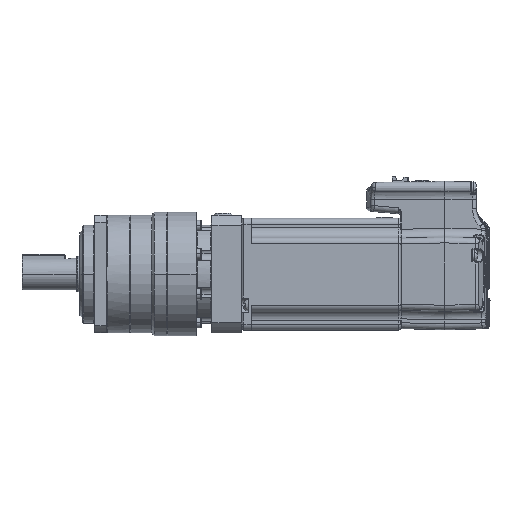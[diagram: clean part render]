
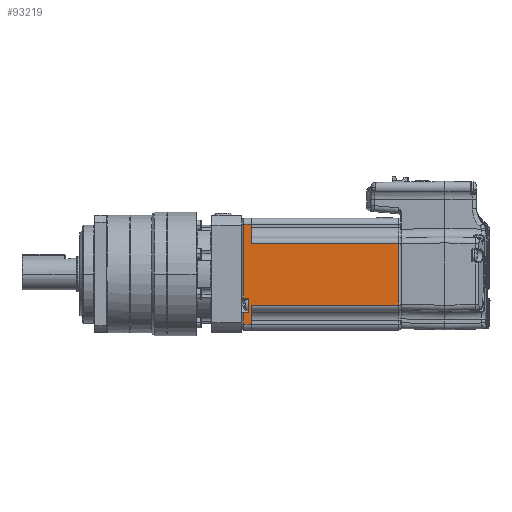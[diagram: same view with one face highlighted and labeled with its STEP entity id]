
A CAD part, left-side view. The second image highlights one B-rep face of the part: STEP entity #93219.
In plain terms, the highlighted planar face has unit normal (-1, 0, 0).
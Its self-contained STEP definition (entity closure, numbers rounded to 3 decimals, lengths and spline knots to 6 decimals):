
#15682 = FACE_OUTER_BOUND ( 'NONE', #38463, .T. ) ;
#18188 = AXIS2_PLACEMENT_3D ( 'NONE', #30464, #30478, #30480 ) ;
#30464 = CARTESIAN_POINT ( 'NONE',  ( -0.028519, 0.0075, -0.0285 ) ) ;
#30474 = PLANE ( 'NONE',  #18188 ) ;
#30478 = DIRECTION ( 'NONE',  ( -1., 0., 0. ) ) ;
#30480 = DIRECTION ( 'NONE',  ( 0., 0., 1. ) ) ;
#38463 = EDGE_LOOP ( 'NONE', ( #132261, #132262, #132263, #132264, #132265, #132266, #132267, #132268, #132269, #132270, #132271, #132272 ) ) ;
#53058 = CARTESIAN_POINT ( 'NONE',  ( -0.028519, 0.0835, 0.0255 ) ) ;
#53147 = CARTESIAN_POINT ( 'NONE',  ( -0.028519, 0.0085, 0.01577 ) ) ;
#53199 = CARTESIAN_POINT ( 'NONE',  ( -0.028519, 0.0085, -0.01577 ) ) ;
#53221 = CARTESIAN_POINT ( 'NONE',  ( -0.028519, 0.0875, 0.0255 ) ) ;
#53377 = CARTESIAN_POINT ( 'NONE',  ( -0.028519, 0.0875, -0.0122 ) ) ;
#60328 = LINE ( 'NONE', #76522, #60344 ) ;
#60344 = VECTOR ( 'NONE', #76513, 1. ) ;
#60572 = LINE ( 'NONE', #82118, #60581 ) ;
#60578 = LINE ( 'NONE', #82131, #60597 ) ;
#60581 = VECTOR ( 'NONE', #82124, 1. ) ;
#60584 = LINE ( 'NONE', #82121, #60589 ) ;
#60589 = VECTOR ( 'NONE', #82103, 1. ) ;
#60593 = LINE ( 'NONE', #82150, #60603 ) ;
#60597 = VECTOR ( 'NONE', #82145, 1. ) ;
#60600 = LINE ( 'NONE', #82158, #60609 ) ;
#60603 = VECTOR ( 'NONE', #82155, 1. ) ;
#60606 = LINE ( 'NONE', #82164, #60617 ) ;
#60609 = VECTOR ( 'NONE', #82162, 1. ) ;
#60613 = LINE ( 'NONE', #82171, #60623 ) ;
#60617 = VECTOR ( 'NONE', #82168, 1. ) ;
#60620 = LINE ( 'NONE', #82178, #60629 ) ;
#60623 = VECTOR ( 'NONE', #82175, 1. ) ;
#60626 = LINE ( 'NONE', #82185, #60636 ) ;
#60629 = VECTOR ( 'NONE', #82182, 1. ) ;
#60633 = LINE ( 'NONE', #82193, #60642 ) ;
#60636 = VECTOR ( 'NONE', #82190, 1. ) ;
#60639 = LINE ( 'NONE', #82200, #60649 ) ;
#60642 = VECTOR ( 'NONE', #82197, 1. ) ;
#60649 = VECTOR ( 'NONE', #82205, 1. ) ;
#66988 = CARTESIAN_POINT ( 'NONE',  ( -0.028519, 0.0835, -0.01577 ) ) ;
#67016 = CARTESIAN_POINT ( 'NONE',  ( -0.028519, 0.0835, 0.01577 ) ) ;
#67102 = CARTESIAN_POINT ( 'NONE',  ( -0.028519, 0.0875, -0.0196 ) ) ;
#67105 = CARTESIAN_POINT ( 'NONE',  ( -0.028519, 0.0875, -0.0255 ) ) ;
#67111 = CARTESIAN_POINT ( 'NONE',  ( -0.028519, 0.0835, -0.0255 ) ) ;
#67159 = CARTESIAN_POINT ( 'NONE',  ( -0.028519, 0.085, -0.0196 ) ) ;
#67317 = CARTESIAN_POINT ( 'NONE',  ( -0.028519, 0.085, -0.0122 ) ) ;
#76513 = DIRECTION ( 'NONE',  ( 0., 0., -1. ) ) ;
#76522 = CARTESIAN_POINT ( 'NONE',  ( -0.028519, 0.0085, 0.01577 ) ) ;
#82103 = DIRECTION ( 'NONE',  ( 0., 1., 0. ) ) ;
#82118 = CARTESIAN_POINT ( 'NONE',  ( -0.028519, 0.0835, -0.01577 ) ) ;
#82121 = CARTESIAN_POINT ( 'NONE',  ( -0.028519, 0.0075, 0.01577 ) ) ;
#82124 = DIRECTION ( 'NONE',  ( 0., 1., 0. ) ) ;
#82131 = CARTESIAN_POINT ( 'NONE',  ( -0.028519, 0.0835, -0.0285 ) ) ;
#82145 = DIRECTION ( 'NONE',  ( 0., 0., 1. ) ) ;
#82150 = CARTESIAN_POINT ( 'NONE',  ( -0.028519, 0.0075, 0.0255 ) ) ;
#82155 = DIRECTION ( 'NONE',  ( 0., 1., 0. ) ) ;
#82158 = CARTESIAN_POINT ( 'NONE',  ( -0.028519, 0.0875, -0.0285 ) ) ;
#82162 = DIRECTION ( 'NONE',  ( 0., 0., -1. ) ) ;
#82164 = CARTESIAN_POINT ( 'NONE',  ( -0.028519, 0.0075, -0.0122 ) ) ;
#82168 = DIRECTION ( 'NONE',  ( 0., -1., 0. ) ) ;
#82171 = CARTESIAN_POINT ( 'NONE',  ( -0.028519, 0.085, -0.0285 ) ) ;
#82175 = DIRECTION ( 'NONE',  ( 0., 0., -1. ) ) ;
#82178 = CARTESIAN_POINT ( 'NONE',  ( -0.028519, 0.0075, -0.0196 ) ) ;
#82182 = DIRECTION ( 'NONE',  ( 0., 1., 0. ) ) ;
#82185 = CARTESIAN_POINT ( 'NONE',  ( -0.028519, 0.0875, -0.0285 ) ) ;
#82190 = DIRECTION ( 'NONE',  ( 0., 0., -1. ) ) ;
#82193 = CARTESIAN_POINT ( 'NONE',  ( -0.028519, 0.0075, -0.0255 ) ) ;
#82197 = DIRECTION ( 'NONE',  ( 0., -1., 0. ) ) ;
#82200 = CARTESIAN_POINT ( 'NONE',  ( -0.028519, 0.0835, -0.0285 ) ) ;
#82205 = DIRECTION ( 'NONE',  ( 0., 0., 1. ) ) ;
#93219 = ADVANCED_FACE ( 'NONE', ( #15682 ), #30474, .T. ) ;
#101395 = EDGE_CURVE ( 'NONE', #150751, #150860, #60328, .T. ) ;
#101513 = EDGE_CURVE ( 'NONE', #150860, #151563, #60572, .T. ) ;
#101519 = EDGE_CURVE ( 'NONE', #150751, #151569, #60584, .T. ) ;
#101525 = EDGE_CURVE ( 'NONE', #151569, #150585, #60578, .T. ) ;
#101528 = EDGE_CURVE ( 'NONE', #150585, #150900, #60593, .T. ) ;
#101530 = EDGE_CURVE ( 'NONE', #150900, #151179, #60600, .T. ) ;
#101531 = EDGE_CURVE ( 'NONE', #151179, #151721, #60606, .T. ) ;
#101533 = EDGE_CURVE ( 'NONE', #151721, #151660, #60613, .T. ) ;
#101535 = EDGE_CURVE ( 'NONE', #151660, #151625, #60620, .T. ) ;
#101537 = EDGE_CURVE ( 'NONE', #151625, #151627, #60626, .T. ) ;
#101541 = EDGE_CURVE ( 'NONE', #151627, #151629, #60633, .T. ) ;
#101543 = EDGE_CURVE ( 'NONE', #151629, #151563, #60639, .T. ) ;
#132261 = ORIENTED_EDGE ( 'NONE', *, *, #101395, .F. ) ;
#132262 = ORIENTED_EDGE ( 'NONE', *, *, #101519, .T. ) ;
#132263 = ORIENTED_EDGE ( 'NONE', *, *, #101525, .T. ) ;
#132264 = ORIENTED_EDGE ( 'NONE', *, *, #101528, .T. ) ;
#132265 = ORIENTED_EDGE ( 'NONE', *, *, #101530, .T. ) ;
#132266 = ORIENTED_EDGE ( 'NONE', *, *, #101531, .T. ) ;
#132267 = ORIENTED_EDGE ( 'NONE', *, *, #101533, .T. ) ;
#132268 = ORIENTED_EDGE ( 'NONE', *, *, #101535, .T. ) ;
#132269 = ORIENTED_EDGE ( 'NONE', *, *, #101537, .T. ) ;
#132270 = ORIENTED_EDGE ( 'NONE', *, *, #101541, .T. ) ;
#132271 = ORIENTED_EDGE ( 'NONE', *, *, #101543, .T. ) ;
#132272 = ORIENTED_EDGE ( 'NONE', *, *, #101513, .F. ) ;
#150585 = VERTEX_POINT ( 'NONE', #53058 ) ;
#150751 = VERTEX_POINT ( 'NONE', #53147 ) ;
#150860 = VERTEX_POINT ( 'NONE', #53199 ) ;
#150900 = VERTEX_POINT ( 'NONE', #53221 ) ;
#151179 = VERTEX_POINT ( 'NONE', #53377 ) ;
#151563 = VERTEX_POINT ( 'NONE', #66988 ) ;
#151569 = VERTEX_POINT ( 'NONE', #67016 ) ;
#151625 = VERTEX_POINT ( 'NONE', #67102 ) ;
#151627 = VERTEX_POINT ( 'NONE', #67105 ) ;
#151629 = VERTEX_POINT ( 'NONE', #67111 ) ;
#151660 = VERTEX_POINT ( 'NONE', #67159 ) ;
#151721 = VERTEX_POINT ( 'NONE', #67317 ) ;
